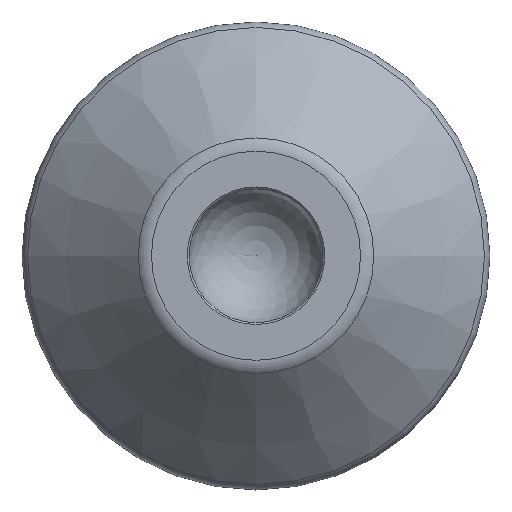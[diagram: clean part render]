
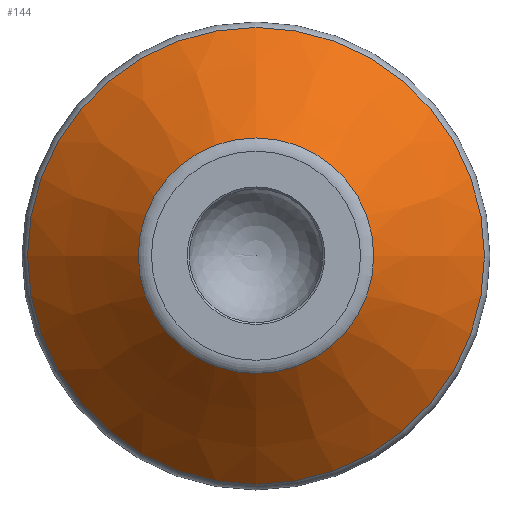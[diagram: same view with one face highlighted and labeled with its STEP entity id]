
A CAD part, top view. The second image highlights one B-rep face of the part: STEP entity #144.
In plain terms, the highlighted conical face has half-angle 45 degrees and reference radius 18.5 mm.
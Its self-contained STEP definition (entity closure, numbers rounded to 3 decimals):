
#144=ADVANCED_FACE('',(#914,#916),#918,.T.);
#914=FACE_OUTER_BOUND('',#915,.T.);
#915=EDGE_LOOP('',(#1793));
#916=FACE_OUTER_BOUND('',#917,.T.);
#917=EDGE_LOOP('',(#1794));
#918=CONICAL_SURFACE('',#919,18.5,0.785);
#919=AXIS2_PLACEMENT_3D('',#920,#921,#922);
#920=CARTESIAN_POINT('',(0.,0.,11.5));
#921=DIRECTION('',(0.,0.,-1.));
#922=DIRECTION('',(1.,0.,0.));
#1793=ORIENTED_EDGE('',*,*,#2351,.F.);
#1794=ORIENTED_EDGE('',*,*,#2349,.T.);
#2349=EDGE_CURVE('',#2968,#2968,#2969,.T.);
#2351=EDGE_CURVE('',#2972,#2972,#2973,.T.);
#2968=VERTEX_POINT('',#5695);
#2969=CIRCLE('',#5696,24.414);
#2972=VERTEX_POINT('',#5705);
#2973=CIRCLE('',#5706,12.586);
#5695=CARTESIAN_POINT('',(-24.414,0.,5.586));
#5696=AXIS2_PLACEMENT_3D('',#5697,#5698,#5699);
#5697=CARTESIAN_POINT('',(0.,0.,5.586));
#5698=DIRECTION('',(0.,0.,1.));
#5699=DIRECTION('',(-1.,0.,0.));
#5705=CARTESIAN_POINT('',(-12.586,0.,17.414));
#5706=AXIS2_PLACEMENT_3D('',#5707,#5708,#5709);
#5707=CARTESIAN_POINT('',(0.,0.,17.414));
#5708=DIRECTION('',(0.,0.,1.));
#5709=DIRECTION('',(-1.,0.,0.));
